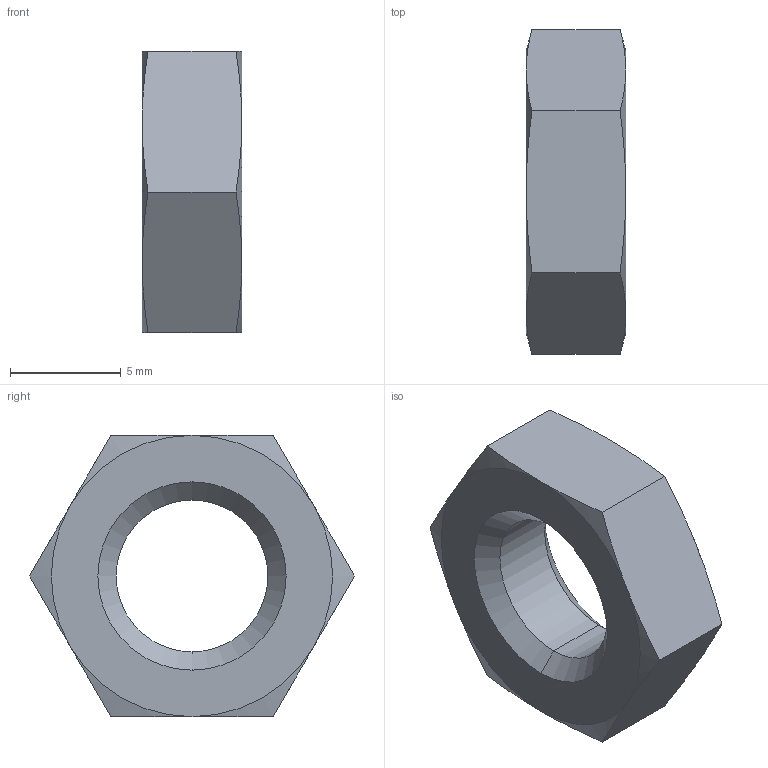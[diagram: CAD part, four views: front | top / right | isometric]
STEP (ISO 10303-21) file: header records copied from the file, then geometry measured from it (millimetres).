
FILE_DESCRIPTION (( 'STEP AP203' ), '1' );
FILE_NAME ('DNN02 SS.STEP', '2009-09-08T08:22:43', ( ' ' ), ( '' ), 'SwSTEP 2.0', 'SolidWorks 2008', '' );
FILE_SCHEMA (( 'CONFIG_CONTROL_DESIGN' ));
Length unit declared in the file: millimetre
Products named in the file (1): DNN02 SS
Bounding box: 4.5 x 14.66 x 12.7 mm (x, y, z)
Volume: 444.5 mm3; surface area: 474.4 mm2
Topology: 1 solids, 1 shells, 26 faces, 56 edges, 32 vertices
Faces by surface type: cone 16, plane 8, cylinder 2
Entity records: 805 total; most frequent: CARTESIAN_POINT 195, ORIENTED_EDGE 112, DIRECTION 106, EDGE_CURVE 56, AXIS2_PLACEMENT_3D 47, VERTEX_POINT 32, EDGE_LOOP 28, ADVANCED_FACE 26
